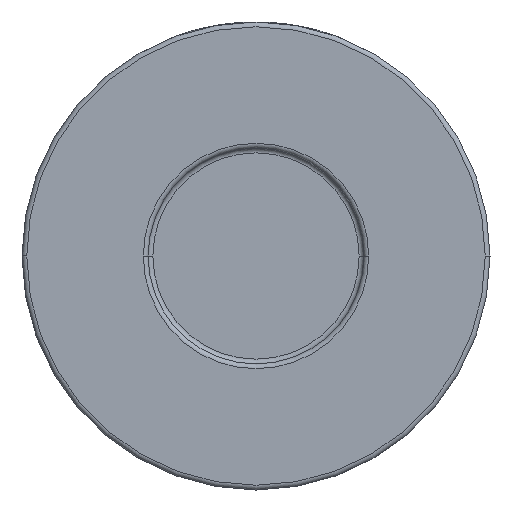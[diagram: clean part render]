
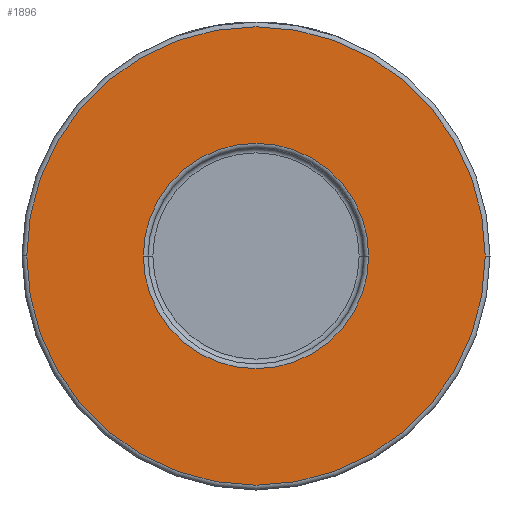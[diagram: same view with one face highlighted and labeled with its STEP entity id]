
A CAD part, front view. The second image highlights one B-rep face of the part: STEP entity #1896.
In plain terms, the highlighted planar face has unit normal (0, -1, 0).
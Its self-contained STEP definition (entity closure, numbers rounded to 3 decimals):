
#274 = AXIS2_PLACEMENT_3D ( 'NONE', #1364, #2826, #2804 ) ;
#413 = AXIS2_PLACEMENT_3D ( 'NONE', #3971, #2139, #4314 ) ;
#559 = DIRECTION ( 'NONE',  ( 0., -1., 0. ) ) ;
#680 = VERTEX_POINT ( 'NONE', #3120 ) ;
#1029 = ORIENTED_EDGE ( 'NONE', *, *, #1405, .T. ) ;
#1107 = EDGE_LOOP ( 'NONE', ( #1029, #2231 ) ) ;
#1283 = EDGE_LOOP ( 'NONE', ( #2009, #3206 ) ) ;
#1319 = AXIS2_PLACEMENT_3D ( 'NONE', #1762, #3178, #2153 ) ;
#1364 = CARTESIAN_POINT ( 'NONE',  ( 0., -30., 0. ) ) ;
#1405 = EDGE_CURVE ( 'NONE', #1825, #3589, #4421, .T. ) ;
#1521 = DIRECTION ( 'NONE',  ( 0., -1., 0. ) ) ;
#1695 = CIRCLE ( 'NONE', #3840, 48. ) ;
#1762 = CARTESIAN_POINT ( 'NONE',  ( 49., -30., 0. ) ) ;
#1816 = CIRCLE ( 'NONE', #3521, 48. ) ;
#1825 = VERTEX_POINT ( 'NONE', #4308 ) ;
#1896 = ADVANCED_FACE ( 'NONE', ( #3917, #2452 ), #2824, .T. ) ;
#1983 = VERTEX_POINT ( 'NONE', #2990 ) ;
#2009 = ORIENTED_EDGE ( 'NONE', *, *, #2642, .T. ) ;
#2139 = DIRECTION ( 'NONE',  ( 0., 1., 0. ) ) ;
#2153 = DIRECTION ( 'NONE',  ( 1., 0., 0. ) ) ;
#2231 = ORIENTED_EDGE ( 'NONE', *, *, #4554, .T. ) ;
#2301 = CARTESIAN_POINT ( 'NONE',  ( 0., -30., 0. ) ) ;
#2452 = FACE_OUTER_BOUND ( 'NONE', #1283, .T. ) ;
#2642 = EDGE_CURVE ( 'NONE', #680, #1983, #1816, .T. ) ;
#2804 = DIRECTION ( 'NONE',  ( 1., 0., 0. ) ) ;
#2824 = PLANE ( 'NONE',  #1319 ) ;
#2826 = DIRECTION ( 'NONE',  ( 0., 1., 0. ) ) ;
#2927 = DIRECTION ( 'NONE',  ( 1., 0., 0. ) ) ;
#2988 = CARTESIAN_POINT ( 'NONE',  ( -23.6, -30., 0. ) ) ;
#2990 = CARTESIAN_POINT ( 'NONE',  ( -48., -30., 0. ) ) ;
#3031 = CIRCLE ( 'NONE', #274, 23.6 ) ;
#3120 = CARTESIAN_POINT ( 'NONE',  ( 48., -30., 0. ) ) ;
#3178 = DIRECTION ( 'NONE',  ( 0., -1., 0. ) ) ;
#3206 = ORIENTED_EDGE ( 'NONE', *, *, #4360, .T. ) ;
#3328 = CARTESIAN_POINT ( 'NONE',  ( 0., -30., 0. ) ) ;
#3521 = AXIS2_PLACEMENT_3D ( 'NONE', #2301, #559, #3717 ) ;
#3589 = VERTEX_POINT ( 'NONE', #2988 ) ;
#3717 = DIRECTION ( 'NONE',  ( 1., 0., 0. ) ) ;
#3840 = AXIS2_PLACEMENT_3D ( 'NONE', #3328, #1521, #2927 ) ;
#3917 = FACE_BOUND ( 'NONE', #1107, .T. ) ;
#3971 = CARTESIAN_POINT ( 'NONE',  ( 0., -30., 0. ) ) ;
#4308 = CARTESIAN_POINT ( 'NONE',  ( 23.6, -30., 0. ) ) ;
#4314 = DIRECTION ( 'NONE',  ( 1., 0., 0. ) ) ;
#4360 = EDGE_CURVE ( 'NONE', #1983, #680, #1695, .T. ) ;
#4421 = CIRCLE ( 'NONE', #413, 23.6 ) ;
#4554 = EDGE_CURVE ( 'NONE', #3589, #1825, #3031, .T. ) ;
